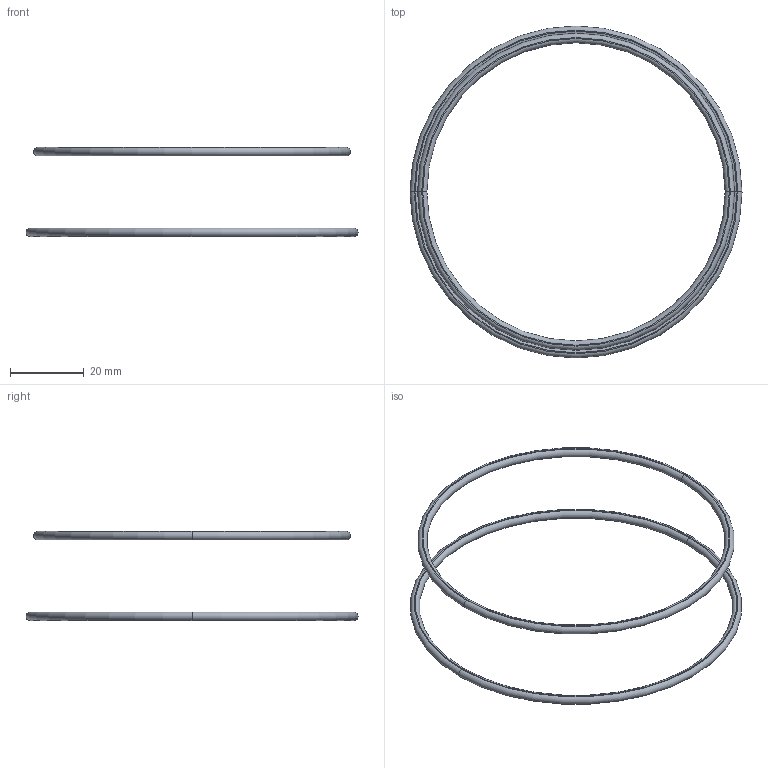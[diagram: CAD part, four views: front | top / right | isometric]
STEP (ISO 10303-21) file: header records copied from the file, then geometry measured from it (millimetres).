
FILE_DESCRIPTION((''),'2;1');
FILE_NAME('RMC-4015','2007-09-27T',('glafferty'),('Pleasant Precision, Inc. (419)675-0556'),'PRO/ENGINEER BY PARAMETRIC TECHNOLOGY CORPORATION, 2006080','PRO/ENGINEER BY PARAMETRIC TECHNOLOGY CORPORATION, 2006080','');
FILE_SCHEMA(('CONFIG_CONTROL_DESIGN'));
Length unit declared in the file: inch
Products named in the file (1): RMC-4015
Bounding box: 89.92 x 89.92 x 24.13 mm (x, y, z)
Volume: 2512.2 mm3; surface area: 4123.5 mm2
Topology: 2 solids, 2 shells, 12 faces, 24 edges, 16 vertices
Faces by surface type: torus 8, plane 4
Entity records: 378 total; most frequent: DIRECTION 72, CARTESIAN_POINT 52, ORIENTED_EDGE 48, AXIS2_PLACEMENT_3D 36, CIRCLE 24, EDGE_CURVE 24, VERTEX_POINT 16, EDGE_LOOP 16
